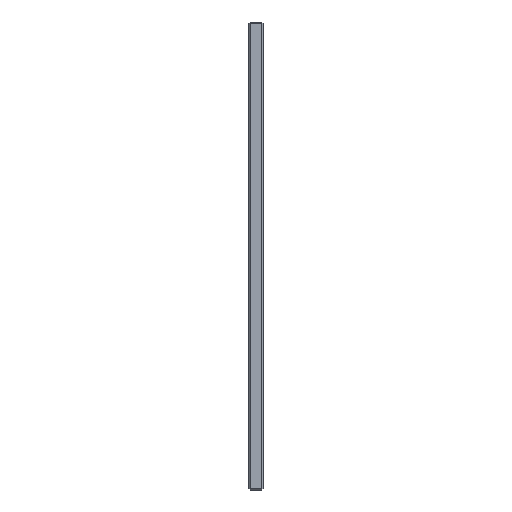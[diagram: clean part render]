
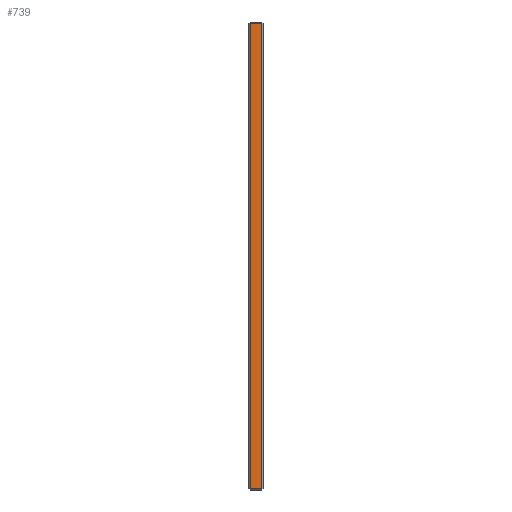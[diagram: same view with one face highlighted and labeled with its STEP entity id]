
A CAD part, left-side view. The second image highlights one B-rep face of the part: STEP entity #739.
In plain terms, the highlighted planar face has unit normal (-1, 0, 0).
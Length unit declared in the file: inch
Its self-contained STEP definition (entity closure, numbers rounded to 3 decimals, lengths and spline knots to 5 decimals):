
#6 = CARTESIAN_POINT ( 'NONE',  ( -7.9375, 0.05, -7.825 ) ) ;
#16 = ORIENTED_EDGE ( 'NONE', *, *, #1901, .T. ) ;
#17 = CARTESIAN_POINT ( 'NONE',  ( -7.9375, 0.5, -7.825 ) ) ;
#56 = DIRECTION ( 'NONE',  ( 0., 1., 0. ) ) ;
#96 = CARTESIAN_POINT ( 'NONE',  ( -7.9375, 0.45, -7.875 ) ) ;
#154 = PLANE ( 'NONE',  #1703 ) ;
#167 = CARTESIAN_POINT ( 'NONE',  ( -7.9375, 0.05, -7.875 ) ) ;
#227 = LINE ( 'NONE', #671, #957 ) ;
#254 = DIRECTION ( 'NONE',  ( 0., 0., -1. ) ) ;
#272 = VERTEX_POINT ( 'NONE', #1666 ) ;
#316 = DIRECTION ( 'NONE',  ( 0., 0., 1. ) ) ;
#496 = ORIENTED_EDGE ( 'NONE', *, *, #624, .T. ) ;
#559 = EDGE_CURVE ( 'NONE', #272, #653, #227, .T. ) ;
#611 = CARTESIAN_POINT ( 'NONE',  ( -7.9375, 0.5, -7.875 ) ) ;
#624 = EDGE_CURVE ( 'NONE', #653, #1649, #1635, .T. ) ;
#653 = VERTEX_POINT ( 'NONE', #674 ) ;
#658 = FACE_OUTER_BOUND ( 'NONE', #904, .T. ) ;
#671 = CARTESIAN_POINT ( 'NONE',  ( -7.9375, 0.5, 7.825 ) ) ;
#674 = CARTESIAN_POINT ( 'NONE',  ( -7.9375, 0.45, 7.825 ) ) ;
#739 = ADVANCED_FACE ( 'Placement Plane', ( #658 ), #154, .F. ) ;
#762 = ORIENTED_EDGE ( 'NONE', *, *, #559, .T. ) ;
#776 = VECTOR ( 'NONE', #254, 39.37008 ) ;
#822 = VECTOR ( 'NONE', #316, 39.37008 ) ;
#857 = DIRECTION ( 'NONE',  ( 1., 0., 0. ) ) ;
#900 = CARTESIAN_POINT ( 'NONE',  ( -7.9375, 0.45, -7.825 ) ) ;
#904 = EDGE_LOOP ( 'NONE', ( #496, #16, #1025, #762 ) ) ;
#957 = VECTOR ( 'NONE', #56, 39.37008 ) ;
#1025 = ORIENTED_EDGE ( 'NONE', *, *, #1757, .T. ) ;
#1332 = DIRECTION ( 'NONE',  ( 0., -1., 0. ) ) ;
#1448 = LINE ( 'NONE', #17, #1493 ) ;
#1493 = VECTOR ( 'NONE', #1332, 39.37008 ) ;
#1589 = LINE ( 'NONE', #167, #822 ) ;
#1635 = LINE ( 'NONE', #96, #776 ) ;
#1649 = VERTEX_POINT ( 'NONE', #900 ) ;
#1666 = CARTESIAN_POINT ( 'NONE',  ( -7.9375, 0.05, 7.825 ) ) ;
#1703 = AXIS2_PLACEMENT_3D ( 'NONE', #611, #857, #1869 ) ;
#1757 = EDGE_CURVE ( 'NONE', #1909, #272, #1589, .T. ) ;
#1869 = DIRECTION ( 'NONE',  ( 0., 0., -1. ) ) ;
#1901 = EDGE_CURVE ( 'NONE', #1649, #1909, #1448, .T. ) ;
#1909 = VERTEX_POINT ( 'NONE', #6 ) ;
